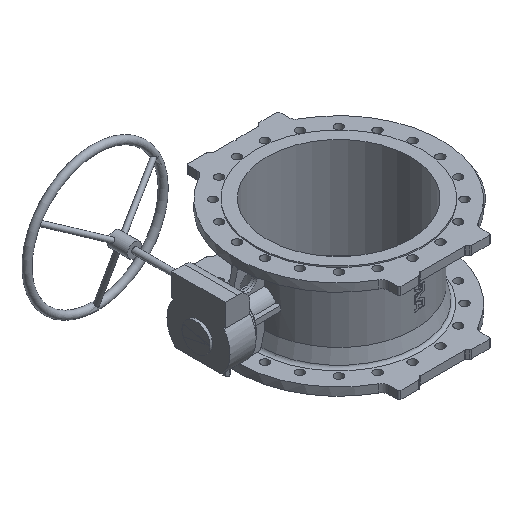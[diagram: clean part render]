
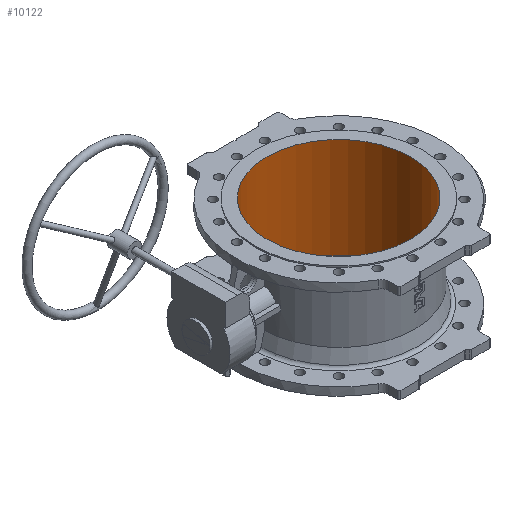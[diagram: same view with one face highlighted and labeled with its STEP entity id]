
A CAD part, isometric view. The second image highlights one B-rep face of the part: STEP entity #10122.
In plain terms, the highlighted cylindrical face has radius 250 mm (diameter 500 mm), a full revolution.
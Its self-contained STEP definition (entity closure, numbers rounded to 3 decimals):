
#1079 = CARTESIAN_POINT ( 'NONE',  ( 0., 0., 175. ) ) ;
#1080 = DIRECTION ( 'NONE',  ( 0., 0., 1. ) ) ;
#1081 = DIRECTION ( 'NONE',  ( 1., 0., 0. ) ) ;
#1694 = CARTESIAN_POINT ( 'NONE',  ( -250., 0., -175. ) ) ;
#1701 = CARTESIAN_POINT ( 'NONE',  ( 250., 0., 175. ) ) ;
#2168 = CARTESIAN_POINT ( 'NONE',  ( 0., 0., 175. ) ) ;
#2169 = DIRECTION ( 'NONE',  ( -1., 0., 0. ) ) ;
#2438 = DIRECTION ( 'NONE',  ( 0., 0., -1. ) ) ;
#4643 = CARTESIAN_POINT ( 'NONE',  ( 0., 0., -175. ) ) ;
#4644 = DIRECTION ( 'NONE',  ( 0., 0., 1. ) ) ;
#4645 = DIRECTION ( 'NONE',  ( -1., 0., 0. ) ) ;
#4962 = FACE_OUTER_BOUND ( 'NONE', #17883, .T. ) ;
#4963 = FACE_OUTER_BOUND ( 'NONE', #17881, .T. ) ;
#4968 = CYLINDRICAL_SURFACE ( 'NONE', #14178, 250. ) ;
#5407 = CIRCLE ( 'NONE', #14334, 250. ) ;
#5606 = CIRCLE ( 'NONE', #14372, 250. ) ;
#5859 = VERTEX_POINT ( 'NONE', #1694 ) ;
#5866 = VERTEX_POINT ( 'NONE', #1701 ) ;
#10122 = ADVANCED_FACE ( 'NONE', ( #4963, #4962 ), #4968, .F. ) ;
#12940 = ORIENTED_EDGE ( 'NONE', *, *, #16684, .T. ) ;
#12941 = ORIENTED_EDGE ( 'NONE', *, *, #16420, .F. ) ;
#14178 = AXIS2_PLACEMENT_3D ( 'NONE', #2168, #2438, #2169 ) ;
#14334 = AXIS2_PLACEMENT_3D ( 'NONE', #4643, #4644, #4645 ) ;
#14372 = AXIS2_PLACEMENT_3D ( 'NONE', #1079, #1080, #1081 ) ;
#16420 = EDGE_CURVE ( 'NONE', #5859, #5859, #5407, .T. ) ;
#16684 = EDGE_CURVE ( 'NONE', #5866, #5866, #5606, .T. ) ;
#17881 = EDGE_LOOP ( 'NONE', ( #12940 ) ) ;
#17883 = EDGE_LOOP ( 'NONE', ( #12941 ) ) ;
